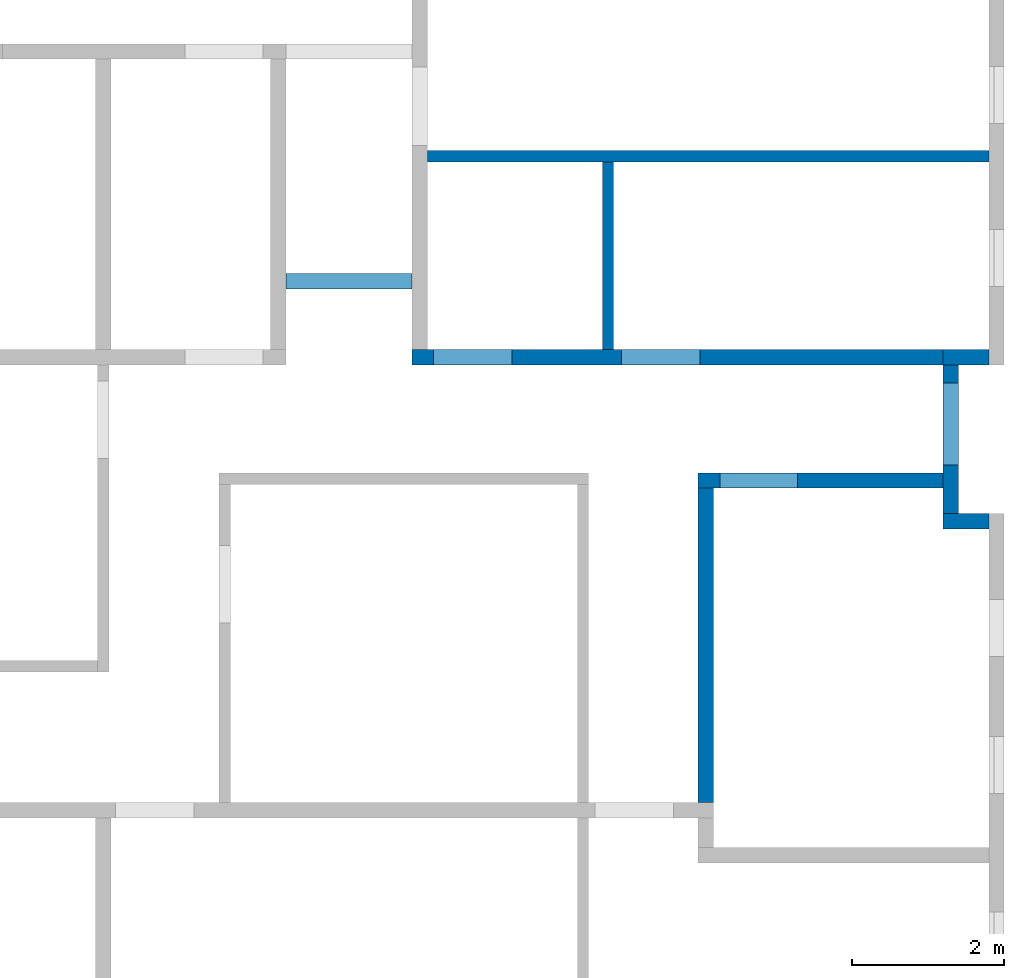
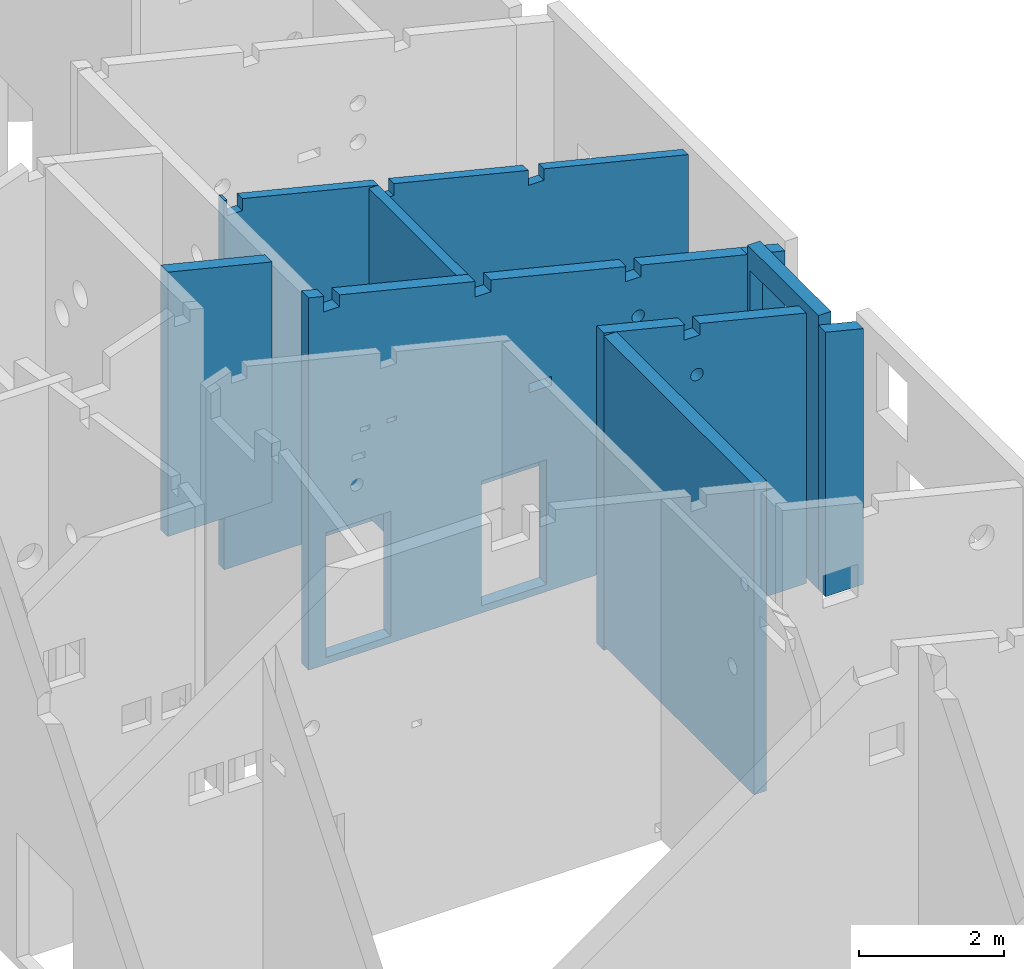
# One storey, part 9 of 13: 9 walls, 22 openings.
"""IFC2X3 building model written with IfcOpenShell, lengths in metres."""

from ifc_helpers import new_model, entity, si_unit, converted_unit, direction, frame, frame_2d, origin, origin_with_axes, place, context, subcontext, project, spatial, polyline, rectangle, outline, extrude, clip, halfspace, material, layer, layer_set, layer_usage, element, save


model = new_model("IFC2X3")

# Units and contexts
model_context = context("Model", 3, precision=1e-05, world=origin(), true_north=direction((-0.407059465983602, -0.913401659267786)))
body_context = subcontext(model_context, "Body", "Model", "MODEL_VIEW")
ifc_project = project(units=[si_unit("LENGTHUNIT", "METRE"), si_unit("AREAUNIT", "SQUARE_METRE"), si_unit("VOLUMEUNIT", "CUBIC_METRE"), si_unit("MASSUNIT", "GRAM", prefix="KILO"), converted_unit("PLANEANGLEUNIT", "DEGREE", entity("IfcPlaneAngleMeasure", 0.0174532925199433), si_unit("PLANEANGLEUNIT", "RADIAN"), dimensions=[0, 0, 0, 0, 0, 0, 0])], contexts=[model_context])

# Site, buildings, storey
site_placement = place(None, origin())
site = spatial("IfcSite", under=ifc_project, at=site_placement, Name="Site", CompositionType="ELEMENT")
building_1_placement = place(site_placement, origin())
building_1 = spatial("IfcBuilding", under=site, at=building_1_placement, Name="Site", CompositionType="COMPLEX")
building_2_placement = place(building_1_placement, origin())
building_2 = spatial("IfcBuilding", under=building_1, at=building_2_placement, Name="Bâtiments", CompositionType="ELEMENT")
storey_placement = place(building_2_placement, frame((0.0, 0.0, -0.14)))
storey = spatial("IfcBuildingStorey", under=building_2, at=storey_placement, Name="RDC", CompositionType="ELEMENT", Elevation=-0.14)

# Wall, openings
ifc_material_1 = material(Name="Mur_Maconnerie")
ifc_layer_1 = layer(ifc_material_1, 0.15)
ifc_layer_set_1 = layer_set([ifc_layer_1])
ifc_layer_usage_1 = layer_usage(ifc_layer_set_1, "AXIS2", "POSITIVE", -0.15)
wall_1_placement = place(storey_placement, frame((70.4328423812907, -6.78826607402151, 0.02)))
wall_1 = element("IfcWallStandardCase", 1, at=wall_1_placement, inside=storey, material=ifc_layer_usage_1, context=body_context, shape_type="Clipping", body=[
    clip(extrude(outline(polyline([(0.0, 0.0), (7.38026742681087, 0.0), (7.38026749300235, 0.15), (0.0, 0.15), (0.0, 0.0)])), origin_with_axes(), (0.0, 0.0, 1.0), 6.21199221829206), halfspace(frame((3.6901337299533, 0.075, 5.30560844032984), z_axis=(-0.238533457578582, 2.70861476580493e-15, -0.971134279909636), x_axis=(0.971134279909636, 0.0, -0.238533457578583)), True)),
])
opening_1_placement = place(wall_1_placement, frame((0.0418514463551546, 0.0, 5.94), z_axis=(0.0, 1.0, 0.0), x_axis=(0.0, 0.0, 1.0)))
element("IfcOpeningElement", 2, at=opening_1_placement, cuts=wall_1, Name="Percement dans mur", ObjectType="Opening", context=body_context, shape_type="SweptSolid", body=[
    extrude(outline(polyline([(0.0, 0.25), (0.26, 0.25), (0.26, 0.0), (0.0, 0.0), (0.0, 0.25)])), origin_with_axes(), (0.0, 0.0, 1.0), 0.15),
])
opening_2_placement = place(wall_1_placement, frame((2.45012951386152, 0.0, 5.35), z_axis=(0.0, 1.0, 0.0), x_axis=(0.0, 0.0, 1.0)))
element("IfcOpeningElement", 3, at=opening_2_placement, cuts=wall_1, Name="Percement dans mur", ObjectType="Opening", context=body_context, shape_type="SweptSolid", body=[
    extrude(outline(polyline([(0.0, 0.25), (0.26, 0.25), (0.26, 0.0), (0.0, 0.0), (0.0, 0.25)])), origin_with_axes(), (0.0, 0.0, 1.0), 0.15),
])
opening_3_placement = place(wall_1_placement, frame((4.83727119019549, 0.0, 4.77), z_axis=(0.0, 1.0, 0.0), x_axis=(0.0, 0.0, 1.0)))
element("IfcOpeningElement", 4, at=opening_3_placement, cuts=wall_1, Name="Percement dans mur", ObjectType="Opening", context=body_context, shape_type="SweptSolid", body=[
    extrude(outline(polyline([(0.0, 0.25), (0.26, 0.25), (0.26, 0.0), (0.0, 0.0), (0.0, 0.25)])), origin_with_axes(), (0.0, 0.0, 1.0), 0.15),
])
opening_4_placement = place(wall_1_placement, frame((3.30471554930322, 0.0, 3.44), z_axis=(0.0, 1.0, 0.0), x_axis=(0.0, 0.0, 1.0)))
element("IfcOpeningElement", 5, at=opening_4_placement, cuts=wall_1, Name="PB-RDC-30", ObjectType="Opening", context=body_context, shape_type="SweptSolid", body=[
    extrude(outline(polyline([(0.0, 0.35), (0.15, 0.35), (0.15, 0.0), (0.0, 0.0), (0.0, 0.35)])), origin_with_axes(), (0.0, 0.0, 1.0), 0.15),
])

# Wall, opening
ifc_material_2 = material(Name="Mur_Maconnerie")
ifc_layer_2 = layer(ifc_material_2, 0.15)
ifc_layer_set_2 = layer_set([ifc_layer_2])
ifc_layer_usage_2 = layer_usage(ifc_layer_set_2, "AXIS2", "POSITIVE", 0.0)
wall_2_placement = place(storey_placement, frame((72.7321039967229, -6.78826607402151, 0.1), z_axis=(0.0, 0.0, 1.0), x_axis=(0.0, -1.0, 0.0)))
wall_2 = element("IfcWallStandardCase", 6, at=wall_2_placement, inside=storey, material=ifc_layer_usage_2, context=body_context, shape_type="SweptSolid", body=[
    extrude(outline(polyline([(-2.46920604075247, 0.0), (-1.1313123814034e-06, 0.0), (0.0, 0.15), (-2.46920604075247, 0.15), (-2.46920604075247, 0.0)])), frame((2.46920604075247, 0.0, 0.0), z_axis=(0.0, 0.0, 1.0), x_axis=(1.0, 0.0, 0.0)), (0.0, 0.0, 1.0), 5.5303958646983),
])
opening_5_placement = place(wall_2_placement, frame((0.842867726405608, 0.15, 3.29), z_axis=(0.0, -1.0, 0.0), x_axis=(0.0, 0.0, 1.0)))
element("IfcOpeningElement", 7, at=opening_5_placement, cuts=wall_2, Name="CVC-088", ObjectType="Opening", context=body_context, shape_type="SweptSolid", body=[
    extrude(outline(polyline([(0.0999999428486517, 0.0), (0.089547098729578, 0.000547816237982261), (0.079208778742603, 0.00218525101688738), (0.069098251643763, 0.00489436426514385), (0.05932629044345, 0.00864547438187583), (0.0499999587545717, 0.0133974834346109), (0.0412214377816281, 0.0190983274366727), (0.0330869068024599, 0.0256855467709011), (0.0256854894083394, 0.0330869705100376), (0.0190982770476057, 0.0412215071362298), (0.0133974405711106, 0.050000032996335), (0.00864543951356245, 0.0593263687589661), (0.00489433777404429, 0.0690983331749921), (0.00218523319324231, 0.0792088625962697), (0.00054780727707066, 0.0895471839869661), (0.0, 0.100000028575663), (0.00054781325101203, 0.110452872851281), (0.00218524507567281, 0.120791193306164), (0.00489435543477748, 0.130901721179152), (0.00864546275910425, 0.140673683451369), (0.0133974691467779, 0.150000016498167), (0.0190983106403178, 0.158778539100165), (0.0256855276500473, 0.166913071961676), (0.0330869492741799, 0.174314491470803), (0.0412214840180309, 0.180901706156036), (0.0500000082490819, 0.186602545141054), (0.059326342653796, 0.191354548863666), (0.0690983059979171, 0.195105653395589), (0.07920883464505, 0.197814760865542), (0.0895471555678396, 0.199452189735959), (0.0999999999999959, 0.2), (0.110452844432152, 0.199452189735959), (0.120791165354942, 0.197814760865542), (0.130901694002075, 0.195105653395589), (0.140673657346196, 0.191354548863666), (0.14999999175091, 0.186602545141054), (0.158778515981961, 0.180901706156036), (0.166913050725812, 0.174314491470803), (0.174314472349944, 0.166913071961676), (0.180901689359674, 0.158778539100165), (0.186602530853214, 0.150000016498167), (0.191354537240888, 0.140673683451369), (0.195105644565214, 0.130901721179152), (0.197814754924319, 0.120791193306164), (0.19945218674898, 0.110452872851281), (0.199999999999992, 0.100000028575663), (0.199452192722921, 0.0895471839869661), (0.19781476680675, 0.0792088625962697), (0.195105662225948, 0.0690983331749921), (0.191354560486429, 0.0593263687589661), (0.186602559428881, 0.050000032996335), (0.180901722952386, 0.0412215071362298), (0.174314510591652, 0.0330869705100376), (0.166913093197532, 0.0256855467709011), (0.158778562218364, 0.0190983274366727), (0.15000004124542, 0.0133974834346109), (0.140673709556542, 0.00864547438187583), (0.130901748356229, 0.00489436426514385), (0.120791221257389, 0.00218525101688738), (0.110452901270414, 0.000547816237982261), (0.0999999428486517, 0.0)])), origin_with_axes(), (0.0, 0.0, 1.0), 0.15),
])

# Wall, openings
ifc_material_3 = material(Name="Béton")
ifc_layer_3 = layer(ifc_material_3, 0.2)
ifc_layer_set_3 = layer_set([ifc_layer_3])
ifc_layer_usage_3 = layer_usage(ifc_layer_set_3, "AXIS2", "POSITIVE", -0.2)
wall_3_placement = place(storey_placement, frame((77.2128866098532, -9.25750477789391, 0.02), z_axis=(0.0, 0.0, 1.0), x_axis=(-0.999999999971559, 7.54208253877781e-06, 0.0)))
wall_3 = element("IfcWallStandardCase", 8, at=wall_3_placement, inside=storey, material=ifc_layer_usage_3, context=body_context, shape_type="Clipping", body=[
    clip(extrude(outline(polyline([(-6.98004271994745, -0.200052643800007), (1.50881355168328e-06, -0.200052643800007), (3.97043884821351e-10, -5.26438000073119e-05), (-6.9800084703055, -5.26438000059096e-05), (-6.98004271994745, -0.200052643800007)])), frame((6.98004271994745, 0.200052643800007, 0.0), z_axis=(0.0, 0.0, 1.0), x_axis=(1.0, 0.0, 0.0)), (0.0, 0.0, 1.0), 6.26111692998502), halfspace(frame((3.49003029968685, 0.100000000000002, 5.40388747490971), z_axis=(0.238533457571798, 1.79903902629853e-06, -0.971134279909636), x_axis=(0.971134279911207, 0.0, 0.238533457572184)), True)),
])
opening_6_placement = place(wall_3_placement, frame((5.58430638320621, 9.60197199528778e-16, 3.72), z_axis=(-1.91448634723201e-11, 1.0, 0.0), x_axis=(0.0, 0.0, 1.0)))
element("IfcOpeningElement", 9, at=opening_6_placement, cuts=wall_3, Name="EL-011", ObjectType="Opening", context=body_context, shape_type="SweptSolid", body=[
    extrude(outline(polyline([(0.0, 0.15), (0.07, 0.15), (0.07, 0.0), (0.0, 0.0), (0.0, 0.15)])), origin_with_axes(), (0.0, 0.0, 1.0), 0.2),
])
opening_7_placement = place(wall_3_placement, frame((6.00585272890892, 1.40285005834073e-15, 3.72), z_axis=(-1.91448634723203e-11, 1.0, 0.0), x_axis=(0.0, 0.0, 1.0)))
element("IfcOpeningElement", 10, at=opening_7_placement, cuts=wall_3, Name="EL-014", ObjectType="Opening", context=body_context, shape_type="SweptSolid", body=[
    extrude(outline(polyline([(0.0, 0.149999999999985), (0.07, 0.149999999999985), (0.07, 0.0), (0.0, 0.0), (0.0, 0.149999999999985)])), origin_with_axes(), (0.0, 0.0, 1.0), 0.199999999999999),
])
opening_8_placement = place(wall_3_placement, frame((1.63831372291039, 4.17384876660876e-16, 4.02000000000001), z_axis=(1.03239017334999e-11, 1.0, 0.0), x_axis=(0.0, 0.0, 1.0)))
element("IfcOpeningElement", 11, at=opening_8_placement, cuts=wall_3, Name="CVC-089", ObjectType="Opening", context=body_context, shape_type="SweptSolid", body=[
    extrude(outline(polyline([(0.0999999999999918, 0.2), (0.110452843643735, 0.199452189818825), (0.120791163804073, 0.197814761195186), (0.130901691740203, 0.195105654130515), (0.140673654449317, 0.191354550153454), (0.149999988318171, 0.186602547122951), (0.158778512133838, 0.180901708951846), (0.16691304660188, 0.174314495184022), (0.174314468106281, 0.166913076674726), (0.180901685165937, 0.15877854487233), (0.186602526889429, 0.150000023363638), (0.19135453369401, 0.140673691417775), (0.195105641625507, 0.130901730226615), (0.197814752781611, 0.120791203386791), (0.199452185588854, 0.110452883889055), (0.199999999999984, 0.100000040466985), (0.199452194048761, 0.0895471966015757), (0.197814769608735, 0.0792088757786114), (0.195105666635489, 0.0690983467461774), (0.191354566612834, 0.0593263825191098), (0.18660256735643, 0.0500000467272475), (0.180901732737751, 0.0412215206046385), (0.174314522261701, 0.0330869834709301), (0.166913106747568, 0.025685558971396), (0.158778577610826, 0.0190983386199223), (0.150000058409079, 0.0133974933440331), (0.140673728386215, 0.00864548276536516), (0.130901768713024, 0.00489437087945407), (0.120791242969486, 0.00218525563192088), (0.110452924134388, 0.000547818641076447), (0.0999999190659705, 0.0), (0.0895470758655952, 0.000547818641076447), (0.0792087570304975, 0.00218525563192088), (0.0690982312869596, 0.00489437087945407), (0.0593262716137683, 0.00864548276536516), (0.0499999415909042, 0.0133974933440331), (0.0412214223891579, 0.0190983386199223), (0.0330868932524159, 0.025685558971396), (0.0256854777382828, 0.0330869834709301), (0.0190982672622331, 0.0412215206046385), (0.0133974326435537, 0.0500000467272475), (0.00864543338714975, 0.0593263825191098), (0.00489433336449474, 0.0690983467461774), (0.0021852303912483, 0.0792088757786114), (0.000547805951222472, 0.0895471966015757), (0.0, 0.100000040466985), (0.000547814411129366, 0.110452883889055), (0.00218524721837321, 0.120791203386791), (0.00489435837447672, 0.130901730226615), (0.00864546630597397, 0.140673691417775), (0.013397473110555, 0.150000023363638), (0.019098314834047, 0.15877854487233), (0.0256855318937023, 0.166913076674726), (0.0330869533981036, 0.174314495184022), (0.0412214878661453, 0.180901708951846), (0.0500000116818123, 0.186602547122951), (0.0593263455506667, 0.191354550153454), (0.0690983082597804, 0.195105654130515), (0.0792088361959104, 0.197814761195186), (0.0895471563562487, 0.199452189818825), (0.0999999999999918, 0.2)])), origin_with_axes(), (0.0, 0.0, 1.0), 0.2),
])
opening_9_placement = place(wall_3_placement, frame((6.73856466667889, 0.199999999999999, 5.94), z_axis=(4.37466951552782e-12, -1.0, 0.0), x_axis=(0.0, 0.0, 1.0)))
element("IfcOpeningElement", 12, at=opening_9_placement, cuts=wall_3, Name="Percement dans mur", ObjectType="Opening", context=body_context, shape_type="SweptSolid", body=[
    extrude(outline(polyline([(0.0, 0.25), (0.26, 0.25), (0.26, 0.0), (0.0, 0.0), (0.0, 0.25)])), origin_with_axes(), (0.0, 0.0, 1.0), 0.199999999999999),
])
opening_10_placement = place(wall_3_placement, frame((4.33101833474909, 0.200000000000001, 5.35), z_axis=(4.37466951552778e-12, -1.0, 0.0), x_axis=(0.0, 0.0, 1.0)))
element("IfcOpeningElement", 13, at=opening_10_placement, cuts=wall_3, Name="Percement dans mur", ObjectType="Opening", context=body_context, shape_type="SweptSolid", body=[
    extrude(outline(polyline([(0.0, 0.25), (0.26, 0.25), (0.26, 0.0), (0.0, 0.0), (0.0, 0.25)])), origin_with_axes(), (0.0, 0.0, 1.0), 0.2),
])
opening_11_placement = place(wall_3_placement, frame((1.9427522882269, 0.200000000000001, 4.77), z_axis=(4.37353264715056e-12, -1.0, 0.0), x_axis=(0.0, 0.0, 1.0)))
element("IfcOpeningElement", 14, at=opening_11_placement, cuts=wall_3, Name="Percement dans mur", ObjectType="Opening", context=body_context, shape_type="SweptSolid", body=[
    extrude(outline(polyline([(0.0, 0.25), (0.25, 0.25), (0.25, 0.0), (0.0, 0.0), (0.0, 0.25)])), origin_with_axes(), (0.0, 0.0, 1.0), 0.2),
])
opening_12_placement = place(wall_3_placement, frame((6.28476695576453, 0.199999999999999, 3.27), z_axis=(-1.03227648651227e-11, -1.0, 0.0), x_axis=(0.0, 0.0, 1.0)))
element("IfcOpeningElement", 15, at=opening_12_placement, cuts=wall_3, Name="PB-RDC-31", ObjectType="Opening", context=body_context, shape_type="SweptSolid", body=[
    extrude(outline(polyline([(0.0, 0.2), (0.1, 0.2), (0.1, 0.0), (0.0, 0.0), (0.0, 0.2)])), origin_with_axes(), (0.0, 0.0, 1.0), 0.2),
])
opening_13_placement = place(wall_3_placement, frame((3.47005277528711, 0.199999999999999, 3.44), z_axis=(4.37466951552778e-12, -1.0, 0.0), x_axis=(0.0, 0.0, 1.0)))
element("IfcOpeningElement", 16, at=opening_13_placement, cuts=wall_3, Name="PB-RDC-32", ObjectType="Opening", context=body_context, shape_type="SweptSolid", body=[
    extrude(outline(polyline([(0.0, 0.35), (0.15, 0.35), (0.15, 0.0), (0.0, 0.0), (0.0, 0.35)])), origin_with_axes(), (0.0, 0.0, 1.0), 0.2),
])
opening_14_placement = place(wall_3_placement, frame((5.66978987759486, -5.52585754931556e-16, 0.12), z_axis=(-1.91448634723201e-11, 1.0, 0.0), x_axis=(0.0, 0.0, 1.0)))
element("IfcOpeningElement", 17, at=opening_14_placement, cuts=wall_3, Name="Baie de porte", ObjectType="Opening", context=body_context, shape_type="SweptSolid", body=[
    extrude(outline(polyline([(0.0, 1.03), (2.1, 1.03), (2.1, 0.0), (0.0, 0.0), (0.0, 1.03)])), origin_with_axes(), (0.0, 0.0, 1.0), 0.2),
])
opening_15_placement = place(wall_3_placement, frame((3.19589241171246, -2.97133845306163e-16, 0.12), z_axis=(-1.91448634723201e-11, 1.0, 0.0), x_axis=(0.0, 0.0, 1.0)))
element("IfcOpeningElement", 18, at=opening_15_placement, cuts=wall_3, Name="Baie de porte", ObjectType="Opening", context=body_context, shape_type="SweptSolid", body=[
    extrude(outline(polyline([(0.0, 1.03), (2.1, 1.03), (2.1, 0.0), (0.0, 0.0), (0.0, 1.03)])), origin_with_axes(), (0.0, 0.0, 1.0), 0.2),
])

# Wall
ifc_material_4 = material(Name="Béton")
ifc_layer_4 = layer(ifc_material_4, 0.199994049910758)
ifc_layer_set_4 = layer_set([ifc_layer_4])
ifc_layer_usage_4 = layer_usage(ifc_layer_set_4, "AXIS2", "POSITIVE", -0.199994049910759)
wall_4_placement = place(storey_placement, frame((77.2128794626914, -9.45749882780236, 0.12), z_axis=(0.0, 0.0, 1.0), x_axis=(0.999999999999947, -3.26093846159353e-07, 0.0)))
element("IfcWallStandardCase", 19, at=wall_4_placement, inside=storey, material=ifc_layer_usage_4, context=body_context, shape_type="Clipping", body=[
    clip(extrude(outline(polyline([(2.86055358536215e-05, 1.95740365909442e-07), (0.600257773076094, 1.95740365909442e-07), (0.60025779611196, 0.199994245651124), (3.56879920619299e-05, 0.199994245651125), (-7.90108046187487e-12, 2.42294681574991e-05), (2.86055358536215e-05, 1.95740365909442e-07)])), frame((-2.86055358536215e-05, -1.95740365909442e-07, 0.0), z_axis=(0.0, 0.0, 1.0), x_axis=(1.0, 0.0, 0.0)), (0.0, 0.0, 1.0), 4.44666241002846), halfspace(frame((0.240087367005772, 0.0800024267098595, 4.38768426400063), z_axis=(-0.238533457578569, -7.77842946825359e-08, -0.971134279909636), x_axis=(0.971134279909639, 5.29395592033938e-23, -0.238533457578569)), True)),
])

# Wall, openings
ifc_material_5 = material(Name="Béton")
ifc_layer_5 = layer(ifc_material_5, 0.199992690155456)
ifc_layer_set_5 = layer_set([ifc_layer_5])
ifc_layer_usage_5 = layer_usage(ifc_layer_set_5, "AXIS2", "POSITIVE", -0.199992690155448)
wall_5_placement = place(storey_placement, frame((77.2128581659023, -9.45748093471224, 0.12), z_axis=(0.0, 0.0, 1.0), x_axis=(-0.00017879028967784, -0.999999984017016, 0.0)))
wall_5 = element("IfcWallStandardCase", 20, at=wall_5_placement, inside=storey, material=ifc_layer_usage_5, context=body_context, shape_type="SweptSolid", body=[
    extrude(outline(polyline([(-1.95417198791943, -3.86178000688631e-12), (-2.15994947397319e-08, -3.86177998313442e-12), (-3.57567515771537e-05, 0.199992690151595), (-1.95418978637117, 0.199992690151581), (-1.95415409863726, 2.1299984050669e-05), (-1.95417198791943, -3.86178000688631e-12)])), frame((1.95417198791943, 3.86178000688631e-12, 0.0), z_axis=(0.0, 0.0, 1.0), x_axis=(1.0, 0.0, 0.0)), (0.0, 0.0, 1.0), 4.60674643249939),
])
opening_16_placement = place(wall_5_placement, frame((1.31995753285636, 0.199992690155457, 3.22), z_axis=(1.2506009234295e-14, -1.0, 0.0), x_axis=(0.0, 0.0, 1.0)))
element("IfcOpeningElement", 21, at=opening_16_placement, cuts=wall_5, Name="CVC-117", ObjectType="Opening", context=body_context, shape_type="SweptSolid", body=[
    extrude(outline(polyline([(0.0, 1.25), (1.0, 1.25), (1.0, 0.0), (0.0, 0.0), (0.0, 1.25)])), origin_with_axes(), (0.0, 0.0, 1.0), 0.199992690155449),
])
opening_17_placement = place(wall_5_placement, frame((0.234636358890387, -4.95895685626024e-15, 0.02), z_axis=(-4.26341223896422e-15, 1.0, 0.0), x_axis=(0.0, 0.0, 1.0)))
element("IfcOpeningElement", 22, at=opening_17_placement, cuts=wall_5, Name="Baie de porte", ObjectType="Opening", context=body_context, shape_type="SweptSolid", body=[
    extrude(outline(polyline([(0.0, 1.08), (2.2, 1.08), (2.2, 0.0), (0.0, 0.0), (0.0, 1.08)])), origin_with_axes(), (0.0, 0.0, 1.0), 0.199992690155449),
])

# Wall, opening
ifc_material_6 = material(Name="Mur_Maconnerie")
ifc_layer_6 = layer(ifc_material_6, 0.2)
ifc_layer_set_6 = layer_set([ifc_layer_6])
ifc_layer_usage_6 = layer_usage(ifc_layer_set_6, "AXIS2", "POSITIVE", 0.0)
wall_6_placement = place(storey_placement, frame((74.1928349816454, -15.2132553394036, 0.1), z_axis=(0.0, 0.0, 1.0), x_axis=(0.0, 1.0, 0.0)))
wall_6 = element("IfcWallStandardCase", 23, at=wall_6_placement, inside=storey, material=ifc_layer_usage_6, context=body_context, shape_type="SweptSolid", body=[
    extrude(rectangle(XDim=4.13576380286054, YDim=0.2, at=frame_2d((2.06788190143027, 0.1), x_axis=(1.0, 0.0))), origin_with_axes(), (0.0, 0.0, 1.0), 5.20844945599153),
])
opening_18_placement = place(wall_6_placement, frame((0.359999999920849, 0.2, 3.29), z_axis=(0.0, -1.0, 0.0), x_axis=(0.0, 0.0, 1.0)))
element("IfcOpeningElement", 24, at=opening_18_placement, cuts=wall_6, Name="CVC-108", ObjectType="Opening", context=body_context, shape_type="SweptSolid", body=[
    extrude(outline(polyline([(0.0999999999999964, 0.0), (0.0895471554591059, 0.000547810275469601), (0.0792088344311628, 0.00218523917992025), (0.0690983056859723, 0.00489434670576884), (0.0593263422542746, 0.00864545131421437), (0.0500000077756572, 0.0133974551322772), (0.0412214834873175, 0.0190982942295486), (0.0330869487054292, 0.0256855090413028), (0.0256855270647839, 0.0330869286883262), (0.0190983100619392, 0.0412214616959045), (0.0133974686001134, 0.0499999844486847), (0.00864546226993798, 0.0593263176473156), (0.00489435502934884, 0.0690982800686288), (0.00218524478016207, 0.079208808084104), (0.000547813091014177, 0.0895471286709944), (0.0, 0.0999999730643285), (0.000547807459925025, 0.110452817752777), (0.00218523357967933, 0.120791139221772), (0.00489433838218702, 0.130901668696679), (0.00864544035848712, 0.140673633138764), (0.0133974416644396, 0.149999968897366), (0.0190982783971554, 0.158778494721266), (0.0256854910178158, 0.166913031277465), (0.033086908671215, 0.174314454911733), (0.0412214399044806, 0.180901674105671), (0.049999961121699, 0.186602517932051), (0.0593262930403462, 0.191354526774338), (0.0690982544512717, 0.195105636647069), (0.0792087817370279, 0.197814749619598), (0.0895471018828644, 0.199452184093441), (0.0999999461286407, 0.2), (0.110452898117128, 0.199452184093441), (0.120791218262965, 0.197814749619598), (0.130901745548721, 0.195105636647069), (0.140673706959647, 0.191354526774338), (0.150000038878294, 0.186602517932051), (0.158778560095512, 0.180901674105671), (0.166913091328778, 0.174314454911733), (0.174314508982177, 0.166913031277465), (0.180901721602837, 0.158778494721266), (0.186602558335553, 0.149999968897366), (0.191354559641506, 0.140673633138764), (0.195105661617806, 0.130901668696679), (0.197814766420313, 0.120791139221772), (0.199452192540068, 0.110452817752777), (0.199999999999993, 0.0999999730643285), (0.199452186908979, 0.0895471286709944), (0.197814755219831, 0.079208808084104), (0.195105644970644, 0.0690982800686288), (0.191354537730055, 0.0593263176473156), (0.186602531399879, 0.0499999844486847), (0.180901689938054, 0.0412214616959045), (0.174314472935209, 0.0330869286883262), (0.166913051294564, 0.0256855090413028), (0.158778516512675, 0.0190982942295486), (0.149999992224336, 0.0133974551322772), (0.140673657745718, 0.00864545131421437), (0.13090169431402, 0.00489434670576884), (0.12079116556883, 0.00218523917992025), (0.110452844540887, 0.000547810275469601), (0.0999999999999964, 0.0)])), origin_with_axes(), (0.0, 0.0, 1.0), 0.2),
])

# Wall, openings
ifc_material_7 = material(Name="Mur_Maconnerie")
ifc_layer_7 = layer(ifc_material_7, 0.2)
ifc_layer_set_7 = layer_set([ifc_layer_7])
ifc_layer_usage_7 = layer_usage(ifc_layer_set_7, "AXIS2", "POSITIVE", 0.0)
wall_7_placement = place(storey_placement, frame((73.9928349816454, -11.0774915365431, 0.02)))
wall_7 = element("IfcWallStandardCase", 25, at=wall_7_placement, inside=storey, material=ifc_layer_usage_7, context=body_context, shape_type="Clipping", body=[
    clip(extrude(outline(polyline([(0.0, 0.0), (3.21972621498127, 0.0), (3.21976199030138, 0.2), (0.0, 0.2), (0.0, 0.0)])), origin_with_axes(), (0.0, 0.0, 1.0), 5.33757416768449), halfspace(frame((1.60987205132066, 0.1, 4.94215166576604), z_axis=(-0.238533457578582, 5.78073980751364e-16, -0.971134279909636), x_axis=(0.971134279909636, 0.0, -0.238533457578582)), True)),
])
opening_19_placement = place(wall_7_placement, frame((1.58173721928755, 0.2, 4.02), z_axis=(0.0, -1.0, 0.0), x_axis=(0.0, 0.0, 1.0)))
element("IfcOpeningElement", 26, at=opening_19_placement, cuts=wall_7, Name="CVC-090", ObjectType="Opening", context=body_context, shape_type="SweptSolid", body=[
    extrude(outline(polyline([(0.1, 0.2), (0.110452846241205, 0.199452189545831), (0.120791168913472, 0.197814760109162), (0.130901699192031, 0.195105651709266), (0.140673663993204, 0.191354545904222), (0.149999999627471, 0.186602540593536), (0.15877852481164, 0.180901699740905), (0.166913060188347, 0.174314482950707), (0.174314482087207, 0.166913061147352), (0.18090169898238, 0.158778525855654), (0.186602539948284, 0.150000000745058), (0.191354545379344, 0.140673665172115), (0.195105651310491, 0.130901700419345), (0.19781475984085, 0.12079117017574), (0.199452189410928, 0.110452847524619), (0.2, 0.100000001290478), (0.199452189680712, 0.089547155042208), (0.197814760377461, 0.0792088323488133), (0.195105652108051, 0.0690983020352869), (0.191354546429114, 0.0593263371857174), (0.186602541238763, 0.0500000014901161), (0.180901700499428, 0.0412214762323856), (0.174314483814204, 0.0330869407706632), (0.166913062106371, 0.0256855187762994), (0.158778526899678, 0.0190983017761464), (0.150000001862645, 0.0133974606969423), (0.140673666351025, 0.00864545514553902), (0.130901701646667, 0.00489434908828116), (0.120791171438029, 0.00218524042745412), (0.110452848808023, 0.000547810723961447), (0.0999999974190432, 0.0), (0.0895471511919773, 0.000547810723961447), (0.0792088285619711, 0.00218524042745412), (0.0690982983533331, 0.00489434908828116), (0.0593263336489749, 0.00864545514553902), (0.0499999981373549, 0.0133974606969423), (0.0412214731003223, 0.0190983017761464), (0.0330869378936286, 0.0256855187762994), (0.0256855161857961, 0.0330869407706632), (0.0190982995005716, 0.0412214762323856), (0.0133974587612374, 0.0500000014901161), (0.00864545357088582, 0.0593263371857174), (0.00489434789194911, 0.0690983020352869), (0.00218523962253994, 0.0792088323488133), (0.000547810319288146, 0.089547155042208), (0.0, 0.100000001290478), (0.00054781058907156, 0.110452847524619), (0.00218524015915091, 0.12079117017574), (0.00489434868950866, 0.130901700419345), (0.00864545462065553, 0.140673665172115), (0.0133974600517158, 0.150000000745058), (0.0190983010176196, 0.158778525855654), (0.0256855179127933, 0.166913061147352), (0.0330869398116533, 0.174314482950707), (0.0412214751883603, 0.180901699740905), (0.050000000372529, 0.186602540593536), (0.0593263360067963, 0.191354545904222), (0.0690983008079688, 0.195105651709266), (0.0792088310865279, 0.197814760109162), (0.089547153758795, 0.199452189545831), (0.1, 0.2)])), origin_with_axes(), (0.0, 0.0, 1.0), 0.2),
])
opening_20_placement = place(wall_7_placement, frame((0.284609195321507, 0.0, 0.12), z_axis=(0.0, 1.0, 0.0), x_axis=(0.0, 0.0, 1.0)))
element("IfcOpeningElement", 27, at=opening_20_placement, cuts=wall_7, Name="Baie de porte", ObjectType="Opening", context=body_context, shape_type="SweptSolid", body=[
    extrude(outline(polyline([(0.0, 1.02), (2.1, 1.02), (2.1, 0.0), (0.0, 0.0), (0.0, 1.02)])), origin_with_axes(), (0.0, 0.0, 1.0), 0.2),
])
opening_21_placement = place(wall_7_placement, frame((1.27730975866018, 0.0, 4.77), z_axis=(0.0, 1.0, 0.0), x_axis=(0.0, 0.0, 1.0)))
element("IfcOpeningElement", 28, at=opening_21_placement, cuts=wall_7, Name="Percement dans mur", ObjectType="Opening", context=body_context, shape_type="SweptSolid", body=[
    extrude(outline(polyline([(0.0, 0.25), (0.25, 0.25), (0.25, 0.0), (0.0, 0.0), (0.0, 0.25)])), origin_with_axes(), (0.0, 0.0, 1.0), 0.2),
])

# Wall
ifc_material_8 = material(Name="Béton")
ifc_layer_8 = layer(ifc_material_8, 0.199999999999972)
ifc_layer_set_8 = layer_set([ifc_layer_8])
ifc_layer_usage_8 = layer_usage(ifc_layer_set_8, "AXIS2", "POSITIVE", -0.199999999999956)
wall_8_placement = place(storey_placement, frame((77.2124730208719, -11.611652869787, 0.12), z_axis=(0.0, 0.0, 1.0), x_axis=(0.999999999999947, -3.26093846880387e-07, 0.0)))
element("IfcWallStandardCase", 29, at=wall_8_placement, inside=storey, material=ifc_layer_usage_8, context=body_context, shape_type="Clipping", body=[
    clip(extrude(outline(polyline([(-6.38698235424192e-14, 1.95863320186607e-07), (0.600634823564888, 1.95863320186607e-07), (0.600634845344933, 0.200000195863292), (3.56928396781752e-05, 0.200000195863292), (-6.38698235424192e-14, 1.95863320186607e-07)])), frame((6.38698235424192e-14, -1.95863320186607e-07, 0.0), z_axis=(0.0, 0.0, 1.0), x_axis=(1.0, 0.0, 0.0)), (0.0, 0.0, 1.0), 4.44675521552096), halfspace(frame((0.300326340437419, 0.0999999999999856, 4.37298798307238), z_axis=(-0.238533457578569, -7.77842920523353e-08, -0.971134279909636), x_axis=(0.971134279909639, 5.29395592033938e-23, -0.238533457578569)), True)),
])

# Wall, opening
ifc_material_9 = material(Name="Mur_Maconnerie")
ifc_layer_9 = layer(ifc_material_9, 0.2)
ifc_layer_set_9 = layer_set([ifc_layer_9])
ifc_layer_usage_9 = layer_usage(ifc_layer_set_9, "AXIS2", "POSITIVE", -0.2)
wall_9_placement = place(storey_placement, frame((68.573168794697, -8.4574521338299, 0.14)))
wall_9 = element("IfcWallStandardCase", 30, at=wall_9_placement, inside=storey, material=ifc_layer_usage_9, context=body_context, shape_type="Clipping", body=[
    clip(extrude(rectangle(XDim=1.65967358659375, YDim=0.2, at=frame_2d((0.829836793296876, 0.1), x_axis=(1.0, 0.0))), origin_with_axes(), (0.0, 0.0, 1.0), 6.54877186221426), halfspace(frame((0.829836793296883, 0.1, 6.34494439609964), z_axis=(-0.238533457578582, 0.0, -0.971134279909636), x_axis=(0.971134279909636, 0.0, -0.238533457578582)), True)),
])
opening_22_placement = place(wall_9_placement, frame((1.65967358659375, 0.2, -4.54747350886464e-16), z_axis=(0.0, -1.0, 0.0), x_axis=(0.0, 0.0, 1.0)))
element("IfcOpeningElement", 31, at=opening_22_placement, cuts=wall_9, Name="Baie de porte", ObjectType="Opening", context=body_context, shape_type="SweptSolid", body=[
    extrude(outline(polyline([(0.0, 1.65967358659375), (2.1, 1.65967358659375), (2.1, 0.0), (0.0, 0.0), (0.0, 1.65967358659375)])), origin_with_axes(), (0.0, 0.0, 1.0), 0.2),
])

save(model, "model.ifc")
